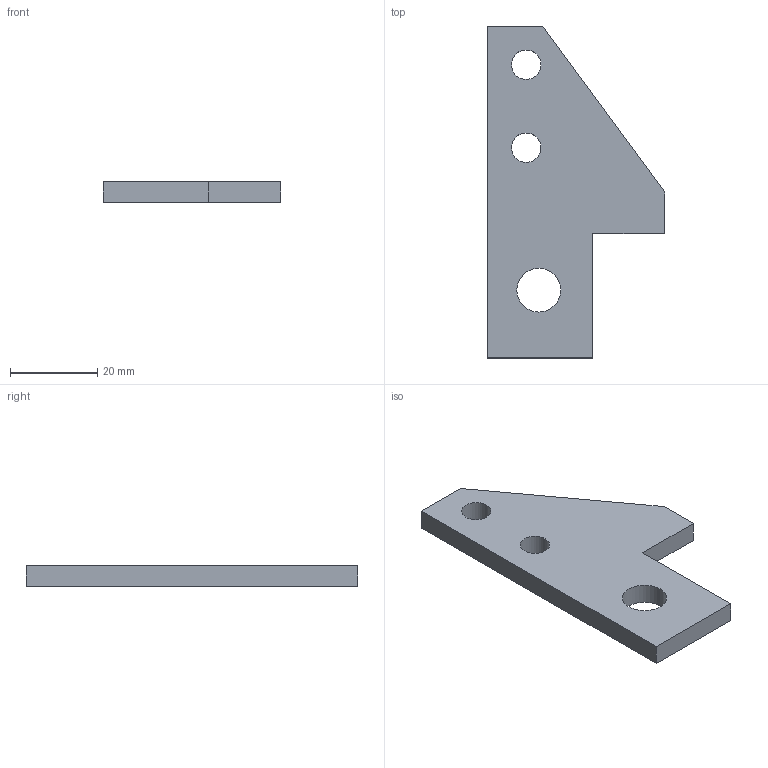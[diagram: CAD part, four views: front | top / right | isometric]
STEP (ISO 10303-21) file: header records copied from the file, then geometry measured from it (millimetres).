
FILE_DESCRIPTION(/* description */ (''),/* implementation_level */ '2;1');
FILE_NAME(/* name */ 'F:\Google Drive\Research\3d Printer Research\Feedstock Grinder\Ginder Parts\negative blade 2.step',/* time_stamp */ '2016-08-18T22:21:17-07:00',/* author */ ('Brenton'),/* organization */ (''),/* preprocessor_version */ 'ST-DEVELOPER v15.6',/* originating_system */ 'Autodesk Inventor 2015',/* authorisation */ '');
FILE_SCHEMA (('AUTOMOTIVE_DESIGN { 1 0 10303 214 3 1 1 }'));
Length unit declared in the file: inch
Products named in the file (1): negative blade 2
Bounding box: 40.64 x 76.2 x 4.76 mm (x, y, z)
Volume: 9244.8 mm3; surface area: 5258.8 mm2
Topology: 1 solids, 1 shells, 12 faces, 30 edges, 20 vertices
Faces by surface type: plane 9, cylinder 3
Full cylindrical faces by diameter (mm): 6.756 x2, 10.084 x1
Entity records: 383 total; most frequent: CARTESIAN_POINT 60, DIRECTION 59, ORIENTED_EDGE 54, EDGE_CURVE 27, LINE 21, VECTOR 21, EDGE_LOOP 21, VERTEX_POINT 20
